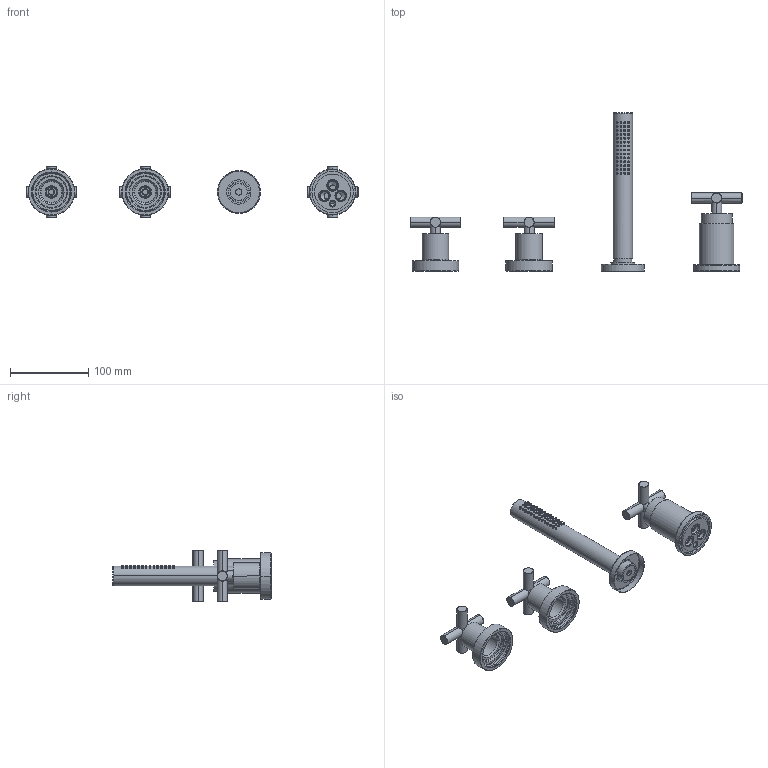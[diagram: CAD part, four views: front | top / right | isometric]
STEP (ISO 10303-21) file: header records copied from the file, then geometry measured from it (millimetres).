
FILE_DESCRIPTION((''),'2;1');
FILE_NAME('F5314_2_FILE_3D','2020-07-22T',('ivanv'),(''),'CREO PARAMETRIC BY PTC INC, 2016260','CREO PARAMETRIC BY PTC INC, 2016260','');
FILE_SCHEMA(('CONFIG_CONTROL_DESIGN'));
Length unit declared in the file: millimetre
Products named in the file (1): F5314_2_FILE_3D
Bounding box: 425 x 202.5 x 65 mm (x, y, z)
Volume: 301660.7 mm3; surface area: 108160.5 mm2
Topology: 6 solids, 6 shells, 988 faces, 2485 edges, 1562 vertices
Faces by surface type: cylinder 457, plane 355, cone 104, torus 66, bspline 6
Entity records: 37568 total; most frequent: CARTESIAN_POINT 14160, ORIENTED_EDGE 4962, DIRECTION 4716, EDGE_CURVE 2481, AXIS2_PLACEMENT_3D 1836, VERTEX_POINT 1562, EDGE_LOOP 1147, VECTOR 1044
